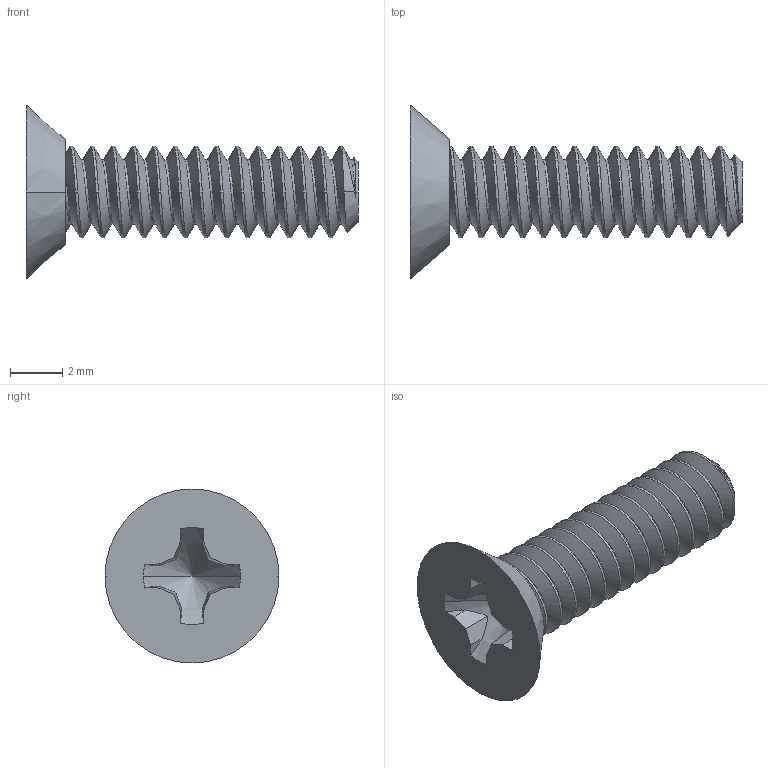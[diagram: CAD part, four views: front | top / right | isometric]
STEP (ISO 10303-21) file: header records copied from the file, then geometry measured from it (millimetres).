
FILE_DESCRIPTION (( 'STEP AP203' ), '1' );
FILE_NAME ('91099A220_Passivated 18-8 Stainless Steel Phillips Flat Head Screw.STEP', '2021-07-26T19:10:05', ( 'Administrator' ), ( 'Managed by Terraform' ), 'SwSTEP 2.0', 'SolidWorks 2017', '' );
FILE_SCHEMA (( 'CONFIG_CONTROL_DESIGN' ));
Length unit declared in the file: inch
Products named in the file (1): 91099A220_Passivated 18-8 Stainless Steel Phillips Flat Head Screw
Bounding box: 12.7 x 6.65 x 6.65 mm (x, y, z)
Volume: 107.3 mm3; surface area: 269.5 mm2
Topology: 1 solids, 1 shells, 57 faces, 162 edges, 107 vertices
Faces by surface type: cylinder 28, plane 19, cone 7, bspline 3
Entity records: 4244 total; most frequent: CARTESIAN_POINT 2908, ORIENTED_EDGE 320, DIRECTION 202, EDGE_CURVE 160, VERTEX_POINT 107, AXIS2_PLACEMENT_3D 70, LINE 62, VECTOR 62
